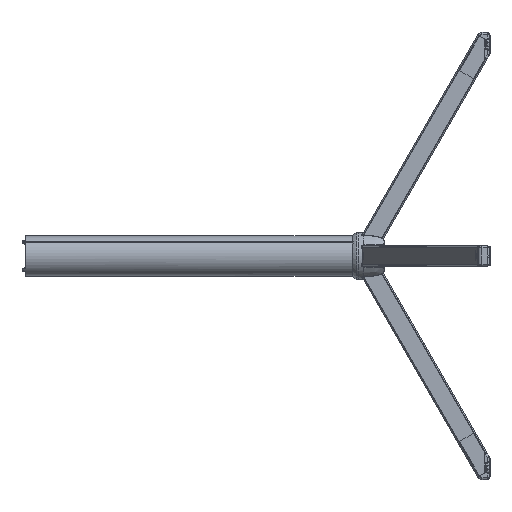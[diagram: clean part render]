
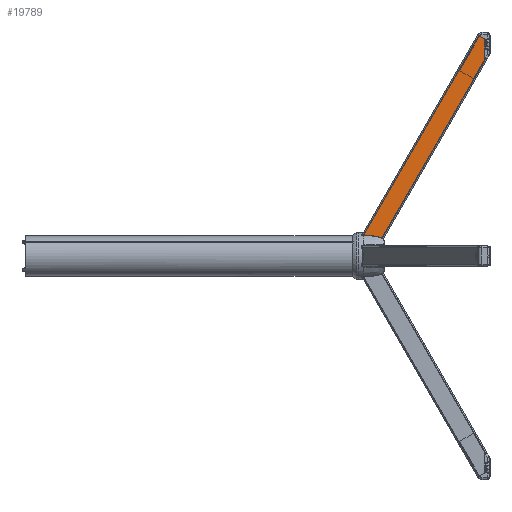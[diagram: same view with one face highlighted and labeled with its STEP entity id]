
A CAD part, left-side view. The second image highlights one B-rep face of the part: STEP entity #19789.
In plain terms, the highlighted planar face has unit normal (-1, 0, 0) as drawn and (0, 0, 1) by its records, which use the part's own axes.
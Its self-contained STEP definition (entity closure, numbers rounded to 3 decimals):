
#25 = VERTEX_POINT ( 'NONE', #15692 ) ;
#404 = ORIENTED_EDGE ( 'NONE', *, *, #8002, .T. ) ;
#696 = EDGE_CURVE ( 'NONE', #9432, #4083, #10700, .T. ) ;
#709 = EDGE_CURVE ( 'NONE', #4083, #5321, #14080, .T. ) ;
#845 = EDGE_CURVE ( 'NONE', #21234, #5433, #10394, .T. ) ;
#854 = VECTOR ( 'NONE', #7279, 1000. ) ;
#1588 = VERTEX_POINT ( 'NONE', #21120 ) ;
#1614 = VECTOR ( 'NONE', #9187, 1000. ) ;
#2526 = CARTESIAN_POINT ( 'NONE',  ( 29.91, 12.75, 15. ) ) ;
#2664 = ORIENTED_EDGE ( 'NONE', *, *, #12231, .F. ) ;
#2901 = VECTOR ( 'NONE', #13255, 1000. ) ;
#3061 = ORIENTED_EDGE ( 'NONE', *, *, #845, .T. ) ;
#3432 = PLANE ( 'NONE',  #6177 ) ;
#3683 = VECTOR ( 'NONE', #7794, 1000. ) ;
#4083 = VERTEX_POINT ( 'NONE', #17408 ) ;
#4267 = LINE ( 'NONE', #4627, #3683 ) ;
#4548 = VERTEX_POINT ( 'NONE', #16141 ) ;
#4627 = CARTESIAN_POINT ( 'NONE',  ( 374.048, -24.21, 15. ) ) ;
#4780 = DIRECTION ( 'NONE',  ( 0., 0., 1. ) ) ;
#5304 = DIRECTION ( 'NONE',  ( -1., 0., 0. ) ) ;
#5321 = VERTEX_POINT ( 'NONE', #16740 ) ;
#5388 = EDGE_CURVE ( 'NONE', #4548, #25, #8123, .T. ) ;
#5433 = VERTEX_POINT ( 'NONE', #2526 ) ;
#5709 = CARTESIAN_POINT ( 'NONE',  ( 5., -12.75, 15. ) ) ;
#6177 = AXIS2_PLACEMENT_3D ( 'NONE', #18400, #18389, #8994 ) ;
#6401 = CIRCLE ( 'NONE', #16371, 5. ) ;
#7279 = DIRECTION ( 'NONE',  ( -1., 0., 0. ) ) ;
#7755 = EDGE_CURVE ( 'NONE', #4548, #21234, #4267, .T. ) ;
#7794 = DIRECTION ( 'NONE',  ( -0.5, 0.866, 0. ) ) ;
#8002 = EDGE_CURVE ( 'NONE', #9432, #1588, #6401, .T. ) ;
#8123 = LINE ( 'NONE', #18170, #20708 ) ;
#8718 = EDGE_LOOP ( 'NONE', ( #18018, #404, #2664, #19730, #15717, #3061, #20101, #15950 ) ) ;
#8994 = DIRECTION ( 'NONE',  ( -1., 0., 0. ) ) ;
#9187 = DIRECTION ( 'NONE',  ( 0., 1., 0. ) ) ;
#9432 = VERTEX_POINT ( 'NONE', #18125 ) ;
#9790 = LINE ( 'NONE', #15013, #2901 ) ;
#10394 = LINE ( 'NONE', #13154, #854 ) ;
#10700 = LINE ( 'NONE', #11416, #20803 ) ;
#11003 = DIRECTION ( 'NONE',  ( -1., 0., 0. ) ) ;
#11416 = CARTESIAN_POINT ( 'NONE',  ( 5., -3.382, 15. ) ) ;
#12122 = DIRECTION ( 'NONE',  ( -1., 0., 0. ) ) ;
#12185 = FACE_OUTER_BOUND ( 'NONE', #8718, .T. ) ;
#12231 = EDGE_CURVE ( 'NONE', #25, #1588, #12335, .T. ) ;
#12335 = LINE ( 'NONE', #5709, #1614 ) ;
#12717 = CARTESIAN_POINT ( 'NONE',  ( 10., -6.269, 15. ) ) ;
#13154 = CARTESIAN_POINT ( 'NONE',  ( 390., 12.75, 15. ) ) ;
#13255 = DIRECTION ( 'NONE',  ( 0., 1., 0. ) ) ;
#13534 = CARTESIAN_POINT ( 'NONE',  ( 352.709, 12.75, 15. ) ) ;
#14080 = CIRCLE ( 'NONE', #19218, 1. ) ;
#14848 = DIRECTION ( 'NONE',  ( 0.866, 0.5, 0. ) ) ;
#15013 = CARTESIAN_POINT ( 'NONE',  ( 29.91, 11.577, 15. ) ) ;
#15558 = EDGE_CURVE ( 'NONE', #5321, #5433, #9790, .T. ) ;
#15692 = CARTESIAN_POINT ( 'NONE',  ( 5., -12.75, 15. ) ) ;
#15717 = ORIENTED_EDGE ( 'NONE', *, *, #7755, .T. ) ;
#15950 = ORIENTED_EDGE ( 'NONE', *, *, #709, .F. ) ;
#16141 = CARTESIAN_POINT ( 'NONE',  ( 367.432, -12.75, 15. ) ) ;
#16371 = AXIS2_PLACEMENT_3D ( 'NONE', #12717, #20339, #11003 ) ;
#16609 = CARTESIAN_POINT ( 'NONE',  ( 28.91, 11.577, 15. ) ) ;
#16740 = CARTESIAN_POINT ( 'NONE',  ( 29.91, 11.577, 15. ) ) ;
#17408 = CARTESIAN_POINT ( 'NONE',  ( 29.41, 10.711, 15. ) ) ;
#18018 = ORIENTED_EDGE ( 'NONE', *, *, #696, .F. ) ;
#18125 = CARTESIAN_POINT ( 'NONE',  ( 7.5, -1.938, 15. ) ) ;
#18170 = CARTESIAN_POINT ( 'NONE',  ( 390., -12.75, 15. ) ) ;
#18389 = DIRECTION ( 'NONE',  ( 0., 0., -1. ) ) ;
#18400 = CARTESIAN_POINT ( 'NONE',  ( 390., -15., 15. ) ) ;
#19218 = AXIS2_PLACEMENT_3D ( 'NONE', #16609, #4780, #12122 ) ;
#19730 = ORIENTED_EDGE ( 'NONE', *, *, #5388, .F. ) ;
#19789 = ADVANCED_FACE ( 'NONE', ( #12185 ), #3432, .F. ) ;
#20101 = ORIENTED_EDGE ( 'NONE', *, *, #15558, .F. ) ;
#20339 = DIRECTION ( 'NONE',  ( 0., 0., 1. ) ) ;
#20708 = VECTOR ( 'NONE', #5304, 1000. ) ;
#20803 = VECTOR ( 'NONE', #14848, 1000. ) ;
#21120 = CARTESIAN_POINT ( 'NONE',  ( 5., -6.269, 15. ) ) ;
#21234 = VERTEX_POINT ( 'NONE', #13534 ) ;
